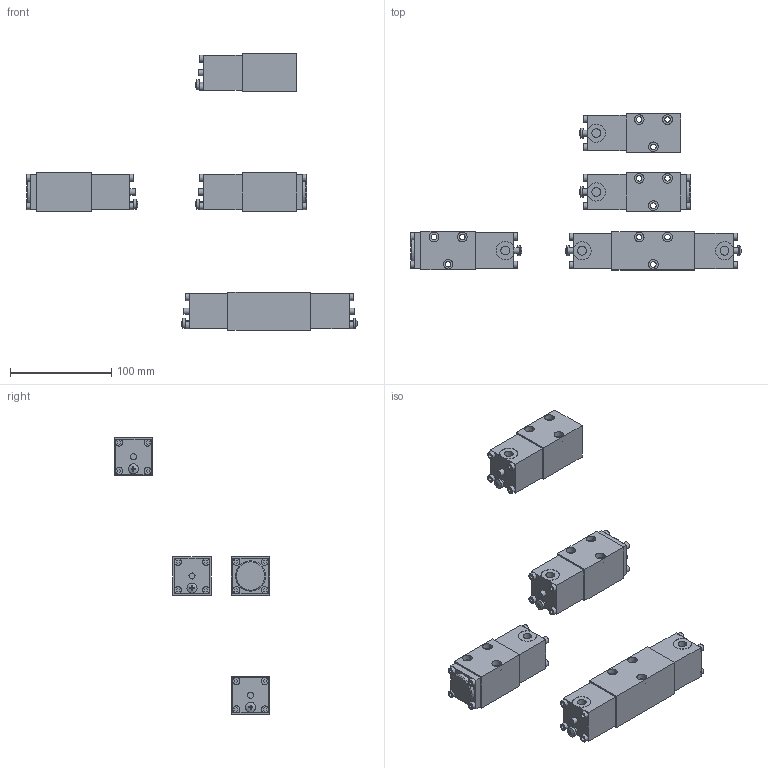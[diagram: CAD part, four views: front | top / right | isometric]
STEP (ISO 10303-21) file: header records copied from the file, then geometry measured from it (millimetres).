
FILE_DESCRIPTION(('Bauteilbeschreibung','HiCAD-Model','HiCAD-STEP-TRANSLATION','Bauteilbeschreibung'),'2;1');
FILE_NAME('C:/_EIGENE_DATEN/DXF_STEP/BK_04_4208..STP','2008-10-14T09:43:40+00:00',('Konstrukteur'),('Konstrukteur Firma GmbH'),' HiCAD neXt 2007, Step 3.1.1212.3C ','HiCAD neXt 2007','confidential');
FILE_SCHEMA(('AUTOMOTIVE_DESIGN { 1 2 10303 214 0 1 1 1 }'));
Length unit declared in the file: millimetre
Products named in the file (62): BK_04_4208 ; BK22041A; D2EE3B1C; FLANSCH; A012B9BD; A012B9BD0; IN6KTM4; IN6KTM40; IN6KTM41; IN6KTM42; IN6KTM43; BK32041A; A3C562C4; A012B9BD1; A012B9BD2; IN6KTM44; IN6KTM45; IN6KTM46; IN6KTM47; IN6KTM48; AFABB89C; AA75327F; AA75327F0; IN6KTM49; IN6KTM410; IN6KTM411; IN6KTM412; IN6KTM413; BK_2040B; ADAA2ACC; AA75327F1; AA75327F2; IN6KTM414; IN6KTM415; IN6KTM416; IN6KTM417; IN6KTM418; A012B9BD3; A012B9BD4; IN6KTM419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
Assembly tree (61 placements, depth 6):
  BK_04_4208 
    BK22041A
      D2EE3B1C
        FLANSCH
        A012B9BD
        A012B9BD0
          IN6KTM4
            IN6KTM40
            IN6KTM41
            IN6KTM42
            IN6KTM43
    BK32041A
      A3C562C4
        A012B9BD1
        A012B9BD2
          IN6KTM44
            IN6KTM45
            IN6KTM46
            IN6KTM47
            IN6KTM48
        AFABB89C
        AA75327F
        AA75327F0
          IN6KTM49
            IN6KTM410
            IN6KTM411
            IN6KTM412
            IN6KTM413
    BK_2040B
      ADAA2ACC
        AA75327F1
        AA75327F2
          IN6KTM414
            IN6KTM415
            IN6KTM416
            IN6KTM417
            IN6KTM418
        A012B9BD3
        A012B9BD4
          IN6KTM419
            IN6KTM420
            IN6KTM421
            IN6KTM422
            IN6KTM423
        AFABB89C0
    BK3404
      AC29D41F
        A107837C
        A012B9BD5
        A012B9BD6
          IN6KTM424
            IN6KTM425
            IN6KTM426
            IN6KTM427
            IN6KTM428
        A012B9BD7
        A012B9BD8
          IN6KTM429
            IN6KTM430
            IN6KTM431
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Bounding box: 326.98 x 154 x 274 mm (x, y, z)
Volume: 576757.3 mm3; surface area: 125659 mm2
Topology: 39 solids, 39 shells, 702 faces, 1494 edges, 985 vertices
Faces by surface type: plane 520, cylinder 175, sphere 5, cone 2
Full cylindrical faces by diameter (mm): 4 x28, 4.5 x28, 5 x5, 5.5 x12, 6 x5, 7 x28, 8.5 x20, 8.7 x5, 9.5 x12, 10 x5, 30 x2
Entity records: 18742 total; most frequent: DIRECTION 3308, CARTESIAN_POINT 2963, ORIENTED_EDGE 2496, EDGE_CURVE 1248, AXIS2_PLACEMENT_3D 1236, EDGE_LOOP 1049, VERTEX_POINT 891, LINE 836
